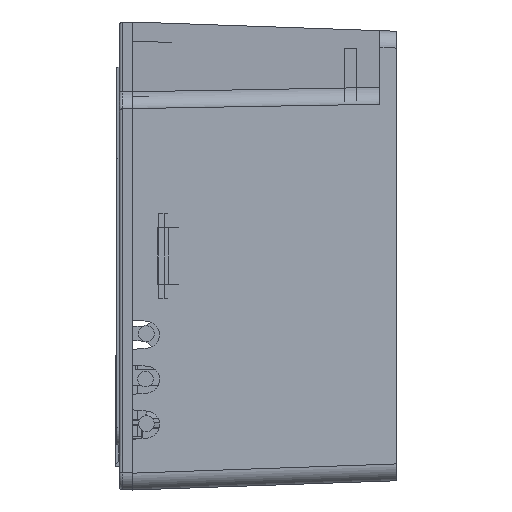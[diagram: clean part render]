
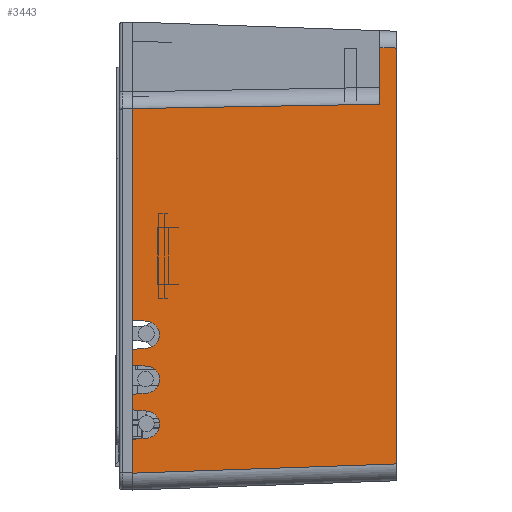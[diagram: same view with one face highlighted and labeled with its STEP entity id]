
A CAD part, left-side view. The second image highlights one B-rep face of the part: STEP entity #3443.
In plain terms, the highlighted planar face has unit normal (-0.999, -0.035, 0).
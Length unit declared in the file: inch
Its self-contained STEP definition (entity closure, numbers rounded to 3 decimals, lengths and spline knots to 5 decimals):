
#203=DIRECTION('',(0.,0.,1.));
#204=VECTOR('',#203,1.45676);
#205=CARTESIAN_POINT('',(-1.65354,0.,
-0.72838));
#206=LINE('',#205,#204);
#751=DIRECTION('',(0.,0.,-1.));
#752=VECTOR('',#751,0.74041);
#753=CARTESIAN_POINT('',(-1.68585,0.9252,
0.51638));
#754=LINE('',#753,#752);
#772=DIRECTION('',(0.035,-0.995,0.091));
#773=VECTOR('',#772,0.04745);
#774=CARTESIAN_POINT('',(-1.68585,0.9252,
-0.32715));
#775=LINE('',#774,#773);
#779=CARTESIAN_POINT('',(-1.6842,0.87797,
-0.32284));
#780=CARTESIAN_POINT('',(-1.68402,0.87278,
-0.32284));
#781=CARTESIAN_POINT('',(-1.68368,0.86305,
-0.32124));
#782=CARTESIAN_POINT('',(-1.68321,0.84955,
-0.31432));
#783=CARTESIAN_POINT('',(-1.68285,0.83915,
-0.30384));
#784=CARTESIAN_POINT('',(-1.68261,0.83234,
-0.29062));
#785=CARTESIAN_POINT('',(-1.68253,0.82993,
-0.27578));
#786=CARTESIAN_POINT('',(-1.68261,0.83222,-0.26094));
#787=CARTESIAN_POINT('',(-1.68284,0.83892,
-0.24764));
#788=CARTESIAN_POINT('',(-1.6832,0.84935,
-0.23698));
#789=CARTESIAN_POINT('',(-1.68368,0.863,
-0.22995));
#790=CARTESIAN_POINT('',(-1.68402,0.87276,
-0.22835));
#791=CARTESIAN_POINT('',(-1.6842,0.87797,
-0.22835));
#796=DIRECTION('',(-0.035,0.995,0.091));
#797=VECTOR('',#796,0.04746);
#798=CARTESIAN_POINT('',(-1.6842,0.87797,
-0.22835));
#799=LINE('',#798,#797);
#803=DIRECTION('',(0.035,-0.999,0.017));
#804=VECTOR('',#803,0.8668);
#805=CARTESIAN_POINT('',(-1.68585,0.9252,
0.51638));
#806=LINE('',#805,#804);
#810=DIRECTION('',(0.,0.,1.));
#811=VECTOR('',#810,0.19895);
#812=CARTESIAN_POINT('',(-1.65561,0.05906,
0.5315));
#813=LINE('',#812,#811);
#817=DIRECTION('',(0.035,-0.999,-0.035));
#818=VECTOR('',#817,0.05913);
#819=CARTESIAN_POINT('',(-1.65561,0.05906,
0.73044));
#820=LINE('',#819,#818);
#824=DIRECTION('',(-0.035,0.999,-0.035));
#825=VECTOR('',#824,0.92632);
#826=CARTESIAN_POINT('',(-1.65354,0.,
-0.72838));
#827=LINE('',#826,#825);
#845=DIRECTION('',(0.,0.,-1.));
#846=VECTOR('',#845,0.05436);
#847=CARTESIAN_POINT('',(-1.68585,0.9252,
-0.32715));
#848=LINE('',#847,#846);
#859=DIRECTION('',(0.035,-0.996,-0.087));
#860=VECTOR('',#859,0.05157);
#861=CARTESIAN_POINT('',(-1.68585,0.9252,
-0.38151));
#862=LINE('',#861,#860);
#873=CARTESIAN_POINT('',(-1.68406,0.87386,
-0.386));
#874=CARTESIAN_POINT('',(-1.68389,0.86906,
-0.38642));
#875=CARTESIAN_POINT('',(-1.68358,0.86006,
-0.38861));
#876=CARTESIAN_POINT('',(-1.68315,0.84777,
-0.39581));
#877=CARTESIAN_POINT('',(-1.68281,0.83821,
-0.40626));
#878=CARTESIAN_POINT('',(-1.6826,0.8321,
-0.41905));
#879=CARTESIAN_POINT('',(-1.68253,0.83001,
-0.43307));
#880=CARTESIAN_POINT('',(-1.6826,0.83211,
-0.44709));
#881=CARTESIAN_POINT('',(-1.68281,0.83822,
-0.45989));
#882=CARTESIAN_POINT('',(-1.68315,0.84777,
-0.47033));
#883=CARTESIAN_POINT('',(-1.68358,0.86007,
-0.47753));
#884=CARTESIAN_POINT('',(-1.68389,0.86906,
-0.47972));
#885=CARTESIAN_POINT('',(-1.68406,0.87386,
-0.48014));
#904=DIRECTION('',(-0.035,0.996,-0.087));
#905=VECTOR('',#904,0.05157);
#906=CARTESIAN_POINT('',(-1.68406,0.87386,
-0.48014));
#907=LINE('',#906,#905);
#918=DIRECTION('',(0.,0.,-1.));
#919=VECTOR('',#918,0.05436);
#920=CARTESIAN_POINT('',(-1.68585,0.9252,
-0.48463));
#921=LINE('',#920,#919);
#925=DIRECTION('',(0.035,-0.996,-0.087));
#926=VECTOR('',#925,0.05157);
#927=CARTESIAN_POINT('',(-1.68585,0.9252,
-0.53899));
#928=LINE('',#927,#926);
#939=CARTESIAN_POINT('',(-1.68406,0.87386,
-0.54349));
#940=CARTESIAN_POINT('',(-1.68389,0.86906,
-0.5439));
#941=CARTESIAN_POINT('',(-1.68358,0.86006,
-0.54609));
#942=CARTESIAN_POINT('',(-1.68315,0.84777,
-0.55329));
#943=CARTESIAN_POINT('',(-1.68281,0.83821,
-0.56374));
#944=CARTESIAN_POINT('',(-1.6826,0.8321,
-0.57653));
#945=CARTESIAN_POINT('',(-1.68253,0.83001,
-0.59055));
#946=CARTESIAN_POINT('',(-1.6826,0.83211,
-0.60457));
#947=CARTESIAN_POINT('',(-1.68281,0.83822,
-0.61737));
#948=CARTESIAN_POINT('',(-1.68315,0.84777,
-0.62781));
#949=CARTESIAN_POINT('',(-1.68358,0.86007,
-0.63501));
#950=CARTESIAN_POINT('',(-1.68389,0.86906,
-0.6372));
#951=CARTESIAN_POINT('',(-1.68406,0.87386,
-0.63762));
#970=DIRECTION('',(-0.035,0.996,-0.087));
#971=VECTOR('',#970,0.05157);
#972=CARTESIAN_POINT('',(-1.68406,0.87386,
-0.63762));
#973=LINE('',#972,#971);
#977=DIRECTION('',(0.,0.,-1.));
#978=VECTOR('',#977,0.11858);
#979=CARTESIAN_POINT('',(-1.68585,0.9252,
-0.64211));
#980=LINE('',#979,#978);
#2174=CARTESIAN_POINT('',(-1.65354,0.,
-0.72838));
#2598=VERTEX_POINT('',#2174);
#2599=CARTESIAN_POINT('',(-1.65354,0.,
0.72838));
#2600=VERTEX_POINT('',#2599);
#2697=CARTESIAN_POINT('',(-1.68585,0.9252,
-0.64211));
#2698=VERTEX_POINT('',#2697);
#2699=CARTESIAN_POINT('',(-1.68585,0.9252,
-0.76069));
#2700=VERTEX_POINT('',#2699);
#2759=CARTESIAN_POINT('',(-1.68585,0.9252,
-0.32715));
#2761=VERTEX_POINT('',#2759);
#2762=CARTESIAN_POINT('',(-1.68585,0.9252,
-0.38151));
#2763=VERTEX_POINT('',#2762);
#2767=CARTESIAN_POINT('',(-1.68585,0.9252,
-0.22403));
#2769=VERTEX_POINT('',#2767);
#2787=CARTESIAN_POINT('',(-1.68585,0.9252,
0.51638));
#2788=VERTEX_POINT('',#2787);
#2791=CARTESIAN_POINT('',(-1.6842,0.87797,
-0.32284));
#2792=VERTEX_POINT('',#2791);
#2825=CARTESIAN_POINT('',(-1.68406,0.87386,
-0.386));
#2826=VERTEX_POINT('',#2825);
#2827=VERTEX_POINT('',#791);
#2828=CARTESIAN_POINT('',(-1.65561,0.05906,
0.5315));
#2829=VERTEX_POINT('',#2828);
#2830=CARTESIAN_POINT('',(-1.65561,0.05906,
0.73044));
#2831=VERTEX_POINT('',#2830);
#2832=CARTESIAN_POINT('',(-1.68406,0.87386,
-0.63762));
#2833=VERTEX_POINT('',#2832);
#2834=VERTEX_POINT('',#939);
#2835=CARTESIAN_POINT('',(-1.68585,0.9252,
-0.53899));
#2836=VERTEX_POINT('',#2835);
#2837=CARTESIAN_POINT('',(-1.68585,0.9252,
-0.48463));
#2838=VERTEX_POINT('',#2837);
#2839=CARTESIAN_POINT('',(-1.68406,0.87386,
-0.48014));
#2840=VERTEX_POINT('',#2839);
#3403=CARTESIAN_POINT('',(-1.65354,0.,-0.87512));
#3404=DIRECTION('',(-0.999,-0.035,0.));
#3405=DIRECTION('',(0.,0.,-1.));
#3406=AXIS2_PLACEMENT_3D('',#3403,#3404,#3405);
#3407=PLANE('',#3406);
#3409=ORIENTED_EDGE('',*,*,#3408,.T.);
#3411=ORIENTED_EDGE('',*,*,#3410,.T.);
#3412=ORIENTED_EDGE('',*,*,#3394,.T.);
#3413=ORIENTED_EDGE('',*,*,#3383,.F.);
#3415=ORIENTED_EDGE('',*,*,#3414,.T.);
#3417=ORIENTED_EDGE('',*,*,#3416,.T.);
#3419=ORIENTED_EDGE('',*,*,#3418,.T.);
#3420=ORIENTED_EDGE('',*,*,#2972,.F.);
#3422=ORIENTED_EDGE('',*,*,#3421,.T.);
#3424=ORIENTED_EDGE('',*,*,#3423,.F.);
#3426=ORIENTED_EDGE('',*,*,#3425,.F.);
#3428=ORIENTED_EDGE('',*,*,#3427,.F.);
#3430=ORIENTED_EDGE('',*,*,#3429,.F.);
#3432=ORIENTED_EDGE('',*,*,#3431,.F.);
#3434=ORIENTED_EDGE('',*,*,#3433,.F.);
#3436=ORIENTED_EDGE('',*,*,#3435,.F.);
#3438=ORIENTED_EDGE('',*,*,#3437,.F.);
#3440=ORIENTED_EDGE('',*,*,#3439,.F.);
#3441=EDGE_LOOP('',(#3409,#3411,#3412,#3413,#3415,#3417,#3419,#3420,#3422,#3424,
#3426,#3428,#3430,#3432,#3434,#3436,#3438,#3440));
#3442=FACE_OUTER_BOUND('',#3441,.F.);
#3443=ADVANCED_FACE('',(#3442),#3407,.T.);
#792=B_SPLINE_CURVE_WITH_KNOTS('',3,(#779,#780,#781,#782,#783,#784,#785,#786,
#787,#788,#789,#790,#791),.UNSPECIFIED.,.F.,.F.,(4,1,1,1,1,1,1,1,1,1,4),(0.,
0.1,0.2,0.3,0.4,0.5,0.6,0.7,0.8,0.9,1.),.UNSPECIFIED.);
#886=B_SPLINE_CURVE_WITH_KNOTS('',3,(#873,#874,#875,#876,#877,#878,#879,#880,
#881,#882,#883,#884,#885),.UNSPECIFIED.,.F.,.F.,(4,1,1,1,1,1,1,1,1,1,4),(0.,
0.1,0.2,0.3,0.4,0.5,0.6,0.7,0.8,0.9,1.),.UNSPECIFIED.);
#952=B_SPLINE_CURVE_WITH_KNOTS('',3,(#939,#940,#941,#942,#943,#944,#945,#946,
#947,#948,#949,#950,#951),.UNSPECIFIED.,.F.,.F.,(4,1,1,1,1,1,1,1,1,1,4),(0.,
0.1,0.2,0.3,0.4,0.5,0.6,0.7,0.8,0.9,1.),.UNSPECIFIED.);
#2972=EDGE_CURVE('',#2598,#2600,#206,.T.);
#3383=EDGE_CURVE('',#2788,#2769,#754,.T.);
#3394=EDGE_CURVE('',#2827,#2769,#799,.T.);
#3408=EDGE_CURVE('',#2761,#2792,#775,.T.);
#3410=EDGE_CURVE('',#2792,#2827,#792,.T.);
#3414=EDGE_CURVE('',#2788,#2829,#806,.T.);
#3416=EDGE_CURVE('',#2829,#2831,#813,.T.);
#3418=EDGE_CURVE('',#2831,#2600,#820,.T.);
#3421=EDGE_CURVE('',#2598,#2700,#827,.T.);
#3423=EDGE_CURVE('',#2698,#2700,#980,.T.);
#3425=EDGE_CURVE('',#2833,#2698,#973,.T.);
#3427=EDGE_CURVE('',#2834,#2833,#952,.T.);
#3429=EDGE_CURVE('',#2836,#2834,#928,.T.);
#3431=EDGE_CURVE('',#2838,#2836,#921,.T.);
#3433=EDGE_CURVE('',#2840,#2838,#907,.T.);
#3435=EDGE_CURVE('',#2826,#2840,#886,.T.);
#3437=EDGE_CURVE('',#2763,#2826,#862,.T.);
#3439=EDGE_CURVE('',#2761,#2763,#848,.T.);
